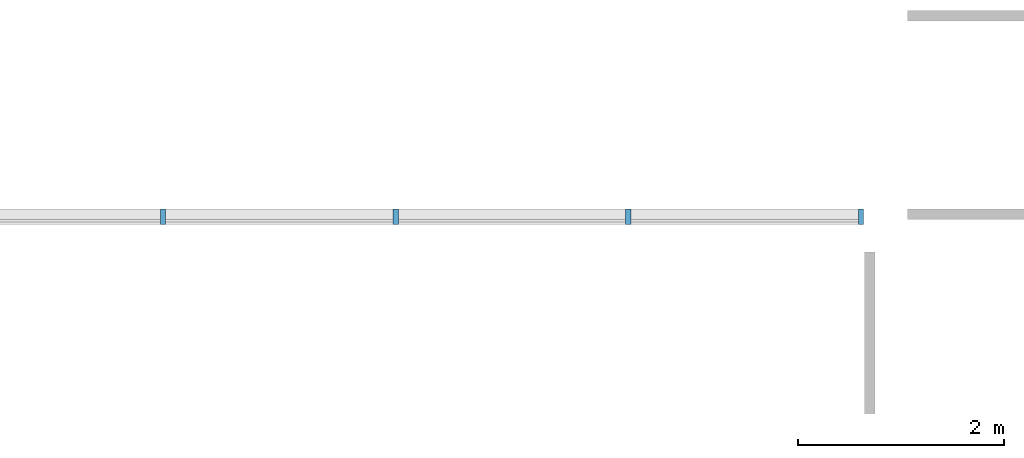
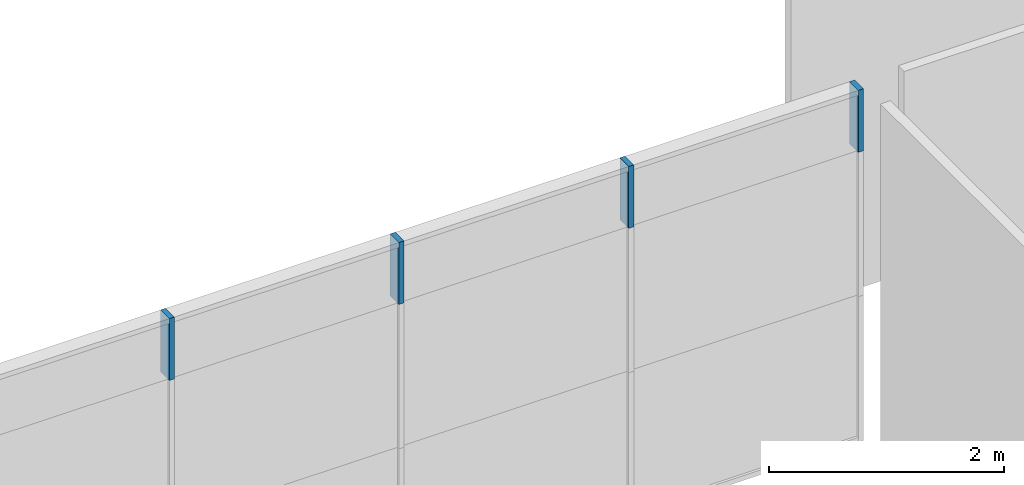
# One storey, part 7 of 15: 4 members, 1 element without a shape of its own.
"""IFC2X3 building model written with IfcOpenShell, lengths in millimetres."""

from ifc_helpers import new_model, entity, si_unit, converted_unit, derived_unit, direction, frame, origin, origin_2d_with_axis, place, context, subcontext, project, spatial, rectangle, extrude, source, transform, mapped, material, type_object, type_shapes, element, aggregate, save


model = new_model("IFC2X3")

# Units and contexts
model_context = context("Model", 3, precision=0.01, world=origin(), true_north=direction((6.12303176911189e-17, 1.0)))
body_context = subcontext(model_context, "Body", "Model", "MODEL_VIEW")
ifc_project = project(units=[si_unit("LENGTHUNIT", "METRE", prefix="MILLI"), si_unit("AREAUNIT", "SQUARE_METRE"), si_unit("VOLUMEUNIT", "CUBIC_METRE"), converted_unit("PLANEANGLEUNIT", "DEGREE", entity("IfcRatioMeasure", 0.0174532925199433), si_unit("PLANEANGLEUNIT", "RADIAN"), dimensions=[0, 0, 0, 0, 0, 0, 0]), si_unit("MASSUNIT", "GRAM", prefix="KILO"), derived_unit("MASSDENSITYUNIT", [(si_unit("MASSUNIT", "GRAM", prefix="KILO"), 1), (si_unit("LENGTHUNIT", "METRE"), -3)]), derived_unit("MOMENTOFINERTIAUNIT", [(si_unit("LENGTHUNIT", "METRE"), 4)]), si_unit("TIMEUNIT", "SECOND"), si_unit("FREQUENCYUNIT", "HERTZ"), si_unit("THERMODYNAMICTEMPERATUREUNIT", "DEGREE_CELSIUS"), derived_unit("THERMALTRANSMITTANCEUNIT", [(si_unit("MASSUNIT", "GRAM", prefix="KILO"), 1), (si_unit("THERMODYNAMICTEMPERATUREUNIT", "KELVIN"), -1), (si_unit("TIMEUNIT", "SECOND"), -3)]), derived_unit("VOLUMETRICFLOWRATEUNIT", [(si_unit("LENGTHUNIT", "METRE"), 3), (si_unit("TIMEUNIT", "SECOND"), -1)]), si_unit("ELECTRICCURRENTUNIT", "AMPERE"), si_unit("ELECTRICVOLTAGEUNIT", "VOLT"), si_unit("POWERUNIT", "WATT"), si_unit("FORCEUNIT", "NEWTON", prefix="KILO"), si_unit("ILLUMINANCEUNIT", "LUX"), si_unit("LUMINOUSFLUXUNIT", "LUMEN"), si_unit("LUMINOUSINTENSITYUNIT", "CANDELA"), derived_unit("USERDEFINED", [(si_unit("MASSUNIT", "GRAM", prefix="KILO"), -1), (si_unit("LENGTHUNIT", "METRE"), -2), (si_unit("TIMEUNIT", "SECOND"), 3), (si_unit("LUMINOUSFLUXUNIT", "LUMEN"), 1)]), derived_unit("LINEARVELOCITYUNIT", [(si_unit("LENGTHUNIT", "METRE"), 1), (si_unit("TIMEUNIT", "SECOND"), -1)]), si_unit("PRESSUREUNIT", "PASCAL"), derived_unit("USERDEFINED", [(si_unit("LENGTHUNIT", "METRE"), -2), (si_unit("MASSUNIT", "GRAM", prefix="KILO"), 1), (si_unit("TIMEUNIT", "SECOND"), -2)]), derived_unit("LINEARFORCEUNIT", [(si_unit("MASSUNIT", "GRAM", prefix="KILO"), 1), (si_unit("LENGTHUNIT", "METRE"), 1), (si_unit("TIMEUNIT", "SECOND"), -2), (si_unit("LENGTHUNIT", "METRE"), -1)]), derived_unit("PLANARFORCEUNIT", [(si_unit("MASSUNIT", "GRAM", prefix="KILO"), 1), (si_unit("LENGTHUNIT", "METRE"), 1), (si_unit("TIMEUNIT", "SECOND"), -2), (si_unit("LENGTHUNIT", "METRE"), -2)])], contexts=[model_context])

# Site, building, storey
site_placement = place(None, frame((10627.5135316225, 21939.0796949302, 0.0)))
site = spatial("IfcSite", under=ifc_project, at=site_placement, Name="Default", CompositionType="ELEMENT")
building_placement = place(site_placement, origin())
building = spatial("IfcBuilding", under=site, at=building_placement, CompositionType="ELEMENT")
storey_placement = place(building_placement, origin())
storey = spatial("IfcBuildingStorey", under=building, at=storey_placement, Name="RDC", CompositionType="ELEMENT", Elevation=0.0)

# Curtain wall, members
curtain_wall_type = type_object("IfcCurtainWallType", Name="Curtain Wall:Curtain_Wall-Empty", PredefinedType="NOTDEFINED")
curtain_wall_placement = place(storey_placement, origin())
curtain_wall = element("IfcCurtainWall", 1, at=curtain_wall_placement, inside=storey, type_object=curtain_wall_type, Name="Curtain Wall:Curtain_Wall-Empty", ObjectType="Curtain Wall:Curtain_Wall-Empty")
ifc_material = material(Name="Aluminium")
member_type_1 = type_object("IfcMemberType", Name="Rectangular Mullion:50x150mm", PredefinedType="MULLION", material=ifc_material)
shared_shape_1 = source(origin(), body_context, "Body", "SweptSolid", [
    extrude(rectangle(XDim=150.0, YDim=50.0, at=origin_2d_with_axis()), frame((-25.0, 0.0, -645.0), z_axis=(0.0, 0.0, 1.0), x_axis=(0.0, -1.0, 0.0)), (0.0, 0.0, 1.0), 645.0),
])
type_shapes(member_type_1, [shared_shape_1])
member_1_placement = place(storey_placement, frame((51357.4864683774, 14360.9203050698, 3660.0)))
member_1 = element("IfcMember", 2, at=member_1_placement, type_object=member_type_1, material=ifc_material, Name="Rectangular Mullion:50x150mm", ObjectType="Rectangular Mullion:50x150mm", context=body_context, shape_type="MappedRepresentation", body=[
    mapped(shared_shape_1, transform((0.0, 0.0, 0.0), scale=1.0)),
])
member_type_2 = type_object("IfcMemberType", Name="Rectangular Mullion:50x150mm", PredefinedType="MULLION", material=ifc_material)
shared_shape_2 = source(origin(), body_context, "Body", "SweptSolid", [
    extrude(rectangle(XDim=150.0, YDim=50.0, at=origin_2d_with_axis()), frame((0.0, 0.0, -645.0), z_axis=(0.0, 0.0, 1.0), x_axis=(0.0, -1.0, 0.0)), (0.0, 0.0, 1.0), 645.0),
])
type_shapes(member_type_2, [shared_shape_2])
member_2_placement = place(storey_placement, frame((49072.4864680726, 14360.9203050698, 3015.0), z_axis=(0.0, 0.0, -1.0), x_axis=(-1.0, 0.0, 0.0)))
member_2 = element("IfcMember", 3, at=member_2_placement, type_object=member_type_2, material=ifc_material, Name="Rectangular Mullion:50x150mm", ObjectType="Rectangular Mullion:50x150mm", context=body_context, shape_type="MappedRepresentation", body=[
    mapped(shared_shape_2, transform((0.0, 0.0, 0.0), scale=1.0)),
])
member_3_placement = place(storey_placement, frame((46812.4864680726, 14360.9203050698, 3015.0), z_axis=(0.0, 0.0, -1.0), x_axis=(-1.0, 0.0, 0.0)))
member_3 = element("IfcMember", 4, at=member_3_placement, type_object=member_type_2, material=ifc_material, Name="Rectangular Mullion:50x150mm", ObjectType="Rectangular Mullion:50x150mm", context=body_context, shape_type="MappedRepresentation", body=[
    mapped(shared_shape_2, transform((0.0, 0.0, 0.0), scale=1.0)),
])
member_4_placement = place(storey_placement, frame((44552.4864680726, 14360.9203050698, 3015.0), z_axis=(0.0, 0.0, -1.0), x_axis=(-1.0, 0.0, 0.0)))
member_4 = element("IfcMember", 5, at=member_4_placement, type_object=member_type_2, material=ifc_material, Name="Rectangular Mullion:50x150mm", ObjectType="Rectangular Mullion:50x150mm", context=body_context, shape_type="MappedRepresentation", body=[
    mapped(shared_shape_2, transform((0.0, 0.0, 0.0), scale=1.0)),
])
aggregate(curtain_wall, [member_1, member_2, member_3, member_4])

save(model, "model.ifc")
